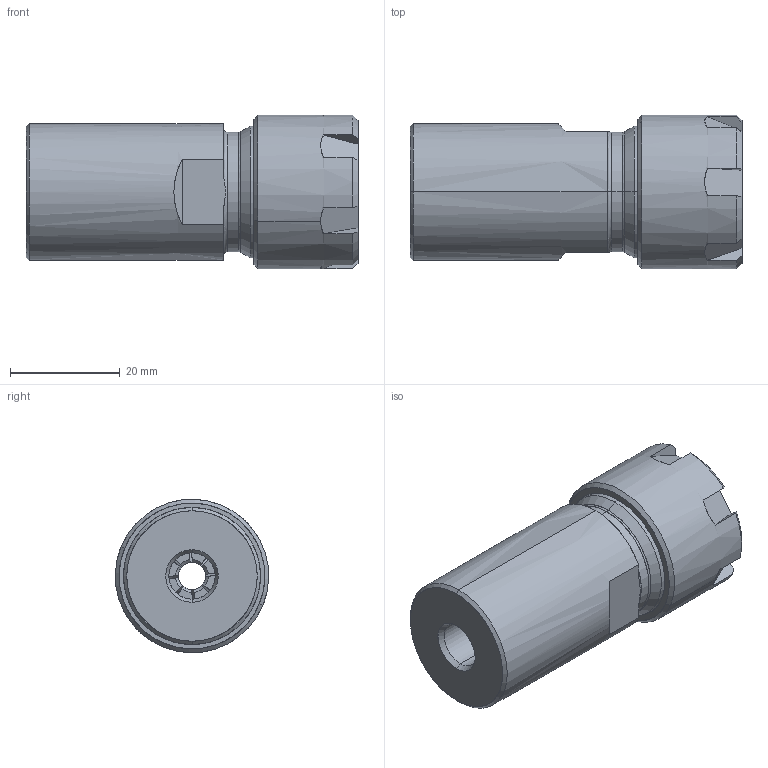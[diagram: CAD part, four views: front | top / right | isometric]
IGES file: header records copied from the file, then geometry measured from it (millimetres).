
Start section: SolidWorks IGES file using analytic representation for surfaces
Global section: file name: R:\Inventor\Kundmodeller Solidworks\Chuckar\040J000121 Collet chuck ER20 3-8-24 1-15 mm.IGS; native system: SolidWorks 2008; preprocessor: SolidWorks 2008; author: Johan; date: 090903.152136; units: millimetre
Bounding box: 60.6 x 27.98 x 28 mm (x, y, z)
Surface area: 17982 mm2 (no closed solid volume)
Topology: 0 solids, 0 shells, 211 faces, 1948 edges, 1948 vertices
Faces by surface type: bspline 106, revolution 105
